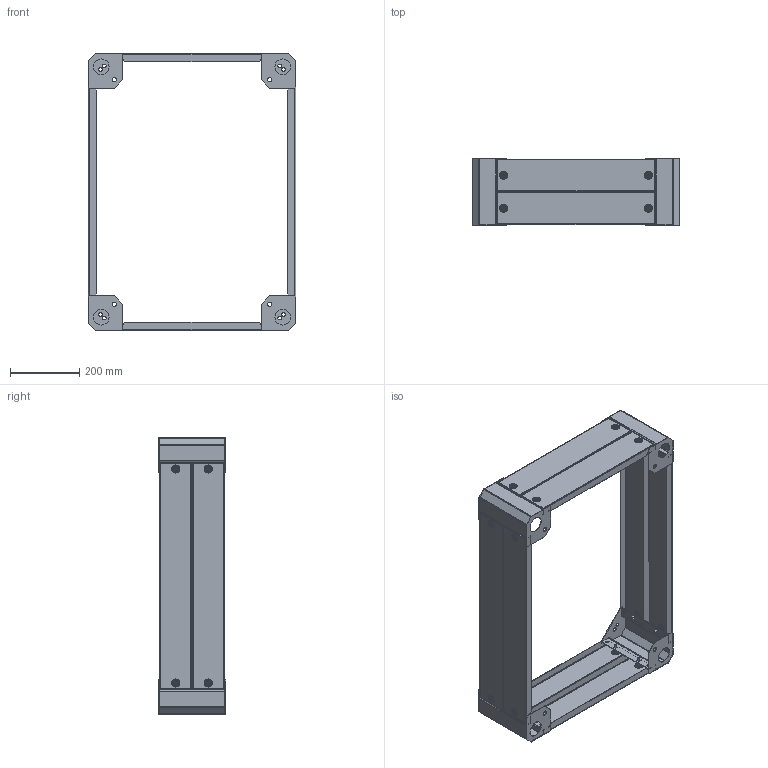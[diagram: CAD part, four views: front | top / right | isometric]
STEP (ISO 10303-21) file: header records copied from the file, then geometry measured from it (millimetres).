
FILE_DESCRIPTION (( 'STEP AP203' ), '1' );
FILE_NAME ('ZA 60.80 IH 诸觐朦 蝈脲觐祆箜桕圉桀眄.STEP', '2025-09-23T05:36:13', ( '' ), ( '' ), 'SwSTEP 2.0', 'SolidWorks 2022', '' );
FILE_SCHEMA (( 'CONFIG_CONTROL_DESIGN' ));
Length unit declared in the file: millimetre
Products named in the file (4): ZA 60.80 IH Цоколь телекоммуникационный; Z 100.600 I Панель цоколя телекоммуникационного (EPLAN)_Z 100.600 I Панель цоколя телекоммуникационного; Z 200 I Угловой элемент цоколя телекоммуникационного; Z 100.600 I Панель цоколя телекоммуникационного (EPLAN)_Z 100.800 I Панель цоколя телекоммуникационного
Assembly tree (12 placements, depth 2):
  ZA 60.80 IH Цоколь телекоммуникационный
    Z 200 I Угловой элемент цоколя телекоммуникационного  x4
    Z 100.600 I Панель цоколя телекоммуникационного (EPLAN)_Z 100.600 I Панель цоколя телекоммуникационного  x4
    Z 100.600 I Панель цоколя телекоммуникационного (EPLAN)_Z 100.800 I Панель цоколя телекоммуникационного  x4
Bounding box: 600.04 x 195 x 800.04 mm (x, y, z)
Volume: 1220685.7 mm3; surface area: 1751969.2 mm2
Topology: 28 solids, 28 shells, 1424 faces, 3560 edges, 2240 vertices
Faces by surface type: plane 704, cylinder 368, torus 192, cone 128, sphere 32
Entity records: 11324 total; most frequent: DIRECTION 1960, CARTESIAN_POINT 1861, ORIENTED_EDGE 1764, EDGE_CURVE 882, AXIS2_PLACEMENT_3D 723, VERTEX_POINT 560, VECTOR 514, LINE 514
